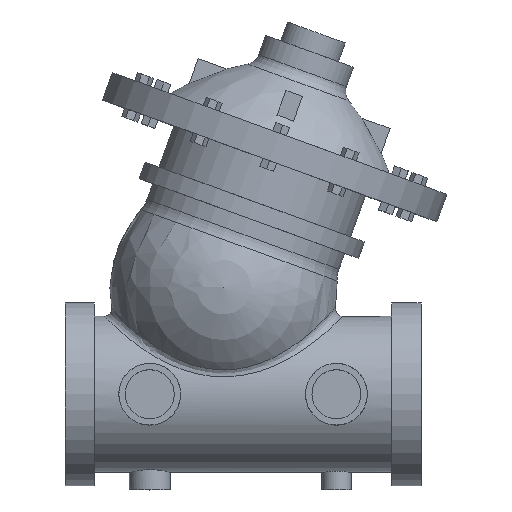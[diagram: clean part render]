
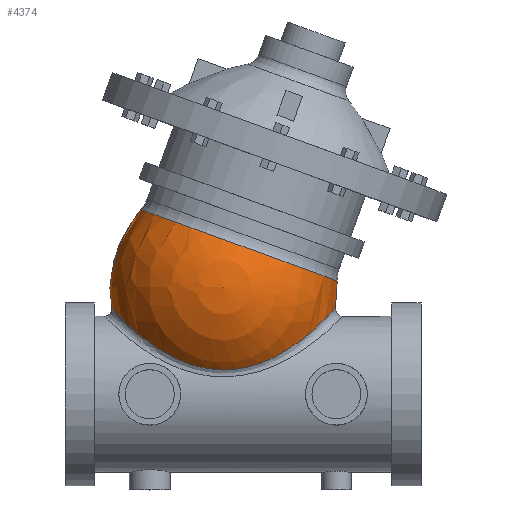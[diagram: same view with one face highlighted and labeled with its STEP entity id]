
A CAD part, top view. The second image highlights one B-rep face of the part: STEP entity #4374.
In plain terms, the highlighted spherical face has radius 49.513 mm.
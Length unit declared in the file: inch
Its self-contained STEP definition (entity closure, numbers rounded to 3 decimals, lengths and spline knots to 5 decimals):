
#1257=FACE_BOUND('',#1580,.T.);
#1258=FACE_BOUND('',#1581,.T.);
#1306=B_SPLINE_CURVE_WITH_KNOTS('',3,(#6098,#6099,#6100,#6101,#6102,#6103,
#6104,#6105,#6106,#6107,#6108,#6109,#6110,#6111,#6112,#6113,#6114,#6115,
#6116,#6117,#6118,#6119,#6120,#6121,#6122,#6123,#6124),.UNSPECIFIED.,.T.,
 .F.,(4,1,1,1,1,1,1,1,1,1,1,1,1,1,1,1,1,1,1,1,1,1,1,1,4),(0.,1.00384,
2.00768,3.01152,4.01535,5.3538,6.69226,
7.36148,8.03071,9.36916,10.70761,12.04606,
13.38451,14.72296,16.06141,17.39987,18.73832,
20.07677,20.74599,21.41522,22.75367,24.09212,
26.0998,27.10364,28.10748),.UNSPECIFIED.);
#1340=SPHERICAL_SURFACE('',#4637,1.94932);
#1342=FACE_OUTER_BOUND('',#1579,.T.);
#1579=EDGE_LOOP('',(#2947,#2948));
#1580=EDGE_LOOP('',(#2949));
#1581=EDGE_LOOP('',(#2950,#2951));
#1864=CIRCLE('',#4631,1.79069);
#1869=CIRCLE('',#4636,1.79069);
#1870=CIRCLE('',#4638,1.94932);
#1936=VERTEX_POINT('',#6082);
#1937=VERTEX_POINT('',#6083);
#1941=VERTEX_POINT('',#6094);
#1942=VERTEX_POINT('',#6095);
#1943=VERTEX_POINT('',#6097);
#2344=EDGE_CURVE('',#1936,#1937,#1864,.T.);
#2349=EDGE_CURVE('',#1937,#1936,#1869,.T.);
#2350=EDGE_CURVE('',#1941,#1942,#1870,.T.);
#2351=EDGE_CURVE('',#1943,#1943,#1306,.T.);
#2947=ORIENTED_EDGE('',*,*,#2350,.T.);
#2948=ORIENTED_EDGE('',*,*,#2350,.F.);
#2949=ORIENTED_EDGE('',*,*,#2351,.F.);
#2950=ORIENTED_EDGE('',*,*,#2344,.F.);
#2951=ORIENTED_EDGE('',*,*,#2349,.F.);
#4374=ADVANCED_FACE('',(#1342,#1257,#1258),#1340,.T.);
#4631=AXIS2_PLACEMENT_3D('',#6084,#4954,#4955);
#4636=AXIS2_PLACEMENT_3D('',#6092,#4964,#4965);
#4637=AXIS2_PLACEMENT_3D('',#6093,#4966,#4967);
#4638=AXIS2_PLACEMENT_3D('',#6096,#4968,#4969);
#4954=DIRECTION('center_axis',(0.342,0.94,0.));
#4955=DIRECTION('ref_axis',(0.94,-0.342,0.));
#4964=DIRECTION('center_axis',(0.342,0.94,0.));
#4965=DIRECTION('ref_axis',(0.94,-0.342,0.));
#4966=DIRECTION('center_axis',(0.,0.,1.));
#4967=DIRECTION('ref_axis',(1.,0.,0.));
#4968=DIRECTION('center_axis',(0.,-1.,0.));
#4969=DIRECTION('ref_axis',(-1.,0.,0.));
#6082=CARTESIAN_POINT('',(-1.75255,3.16802,0.));
#6083=CARTESIAN_POINT('',(-0.06985,2.55557,-1.79069));
#6084=CARTESIAN_POINT('Origin',(-0.06985,2.55557,0.));
#6092=CARTESIAN_POINT('Origin',(-0.06985,2.55557,0.));
#6093=CARTESIAN_POINT('Origin',(-0.33329,1.83176,0.));
#6094=CARTESIAN_POINT('',(-0.33329,1.83176,1.94932));
#6095=CARTESIAN_POINT('',(-0.33329,1.83176,-1.94932));
#6096=CARTESIAN_POINT('Origin',(-0.33329,1.83176,0.));
#6097=CARTESIAN_POINT('',(-0.33329,0.416,1.33996));
#6098=CARTESIAN_POINT('Ctrl Pts',(-0.33329,0.416,
1.33996));
#6099=CARTESIAN_POINT('Ctrl Pts',(-0.47286,0.416,
1.33996));
#6100=CARTESIAN_POINT('Ctrl Pts',(-0.75192,0.45067,
1.33269));
#6101=CARTESIAN_POINT('Ctrl Pts',(-1.14579,0.59403,1.29107));
#6102=CARTESIAN_POINT('Ctrl Pts',(-1.50054,0.80123,1.1975));
#6103=CARTESIAN_POINT('Ctrl Pts',(-1.83966,1.06457,1.01168));
#6104=CARTESIAN_POINT('Ctrl Pts',(-2.12586,1.34417,0.67587));
#6105=CARTESIAN_POINT('Ctrl Pts',(-2.25393,1.48781,0.23533));
#6106=CARTESIAN_POINT('Ctrl Pts',(-2.25347,1.48682,-0.14084));
#6107=CARTESIAN_POINT('Ctrl Pts',(-2.18614,1.41237,-0.50317));
#6108=CARTESIAN_POINT('Ctrl Pts',(-1.98592,1.20011,-0.88149));
#6109=CARTESIAN_POINT('Ctrl Pts',(-1.6149,0.87593,-1.16143));
#6110=CARTESIAN_POINT('Ctrl Pts',(-1.15116,0.58597,-1.29782));
#6111=CARTESIAN_POINT('Ctrl Pts',(-0.61658,0.40872,
-1.34186));
#6112=CARTESIAN_POINT('Ctrl Pts',(-0.05006,0.40886,
-1.34195));
#6113=CARTESIAN_POINT('Ctrl Pts',(0.48459,0.58588,-1.29778));
#6114=CARTESIAN_POINT('Ctrl Pts',(0.94829,0.87598,-1.16148));
#6115=CARTESIAN_POINT('Ctrl Pts',(1.31931,1.20003,-0.88143));
#6116=CARTESIAN_POINT('Ctrl Pts',(1.51956,1.41237,-0.50306));
#6117=CARTESIAN_POINT('Ctrl Pts',(1.58689,1.48683,-0.14092));
#6118=CARTESIAN_POINT('Ctrl Pts',(1.58732,1.48775,0.2354));
#6119=CARTESIAN_POINT('Ctrl Pts',(1.45933,1.34429,0.67573));
#6120=CARTESIAN_POINT('Ctrl Pts',(1.09492,0.98805,1.10354));
#6121=CARTESIAN_POINT('Ctrl Pts',(0.61047,0.6416,1.2775));
#6122=CARTESIAN_POINT('Ctrl Pts',(0.08539,0.45077,
1.33256));
#6123=CARTESIAN_POINT('Ctrl Pts',(-0.19373,0.416,
1.33996));
#6124=CARTESIAN_POINT('Ctrl Pts',(-0.33329,0.416,
1.33996));
